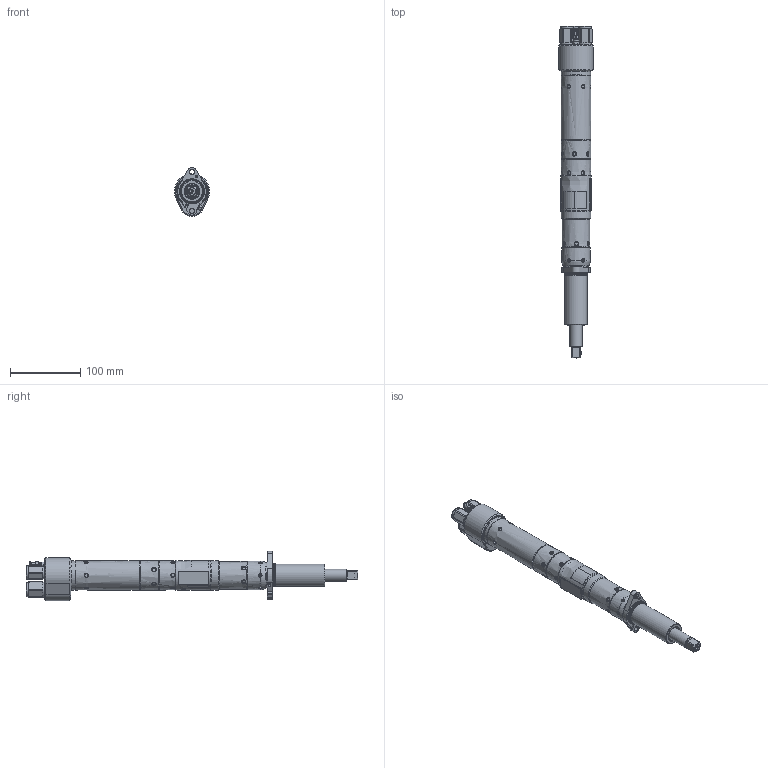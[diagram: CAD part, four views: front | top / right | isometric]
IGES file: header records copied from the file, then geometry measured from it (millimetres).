
Global section: file name: Y:\siji\QA6 & QA8 MODEL\QA8 REMOTE SHUTOFF\45498516\45498516.igs; native system: Unigraphics Version X V2.0; preprocessor: Unigraphics NX IGES V2.0; date: 20070522.112900; units: inch
Bounding box: 49.95 x 474.18 x 70.07 mm (x, y, z)
Surface area: 90398.5 mm2 (no closed solid volume)
Topology: 0 solids, 0 shells, 642 faces, 10690 edges, 10576 vertices
Faces by surface type: revolution 407, extrusion 231, bspline 4
